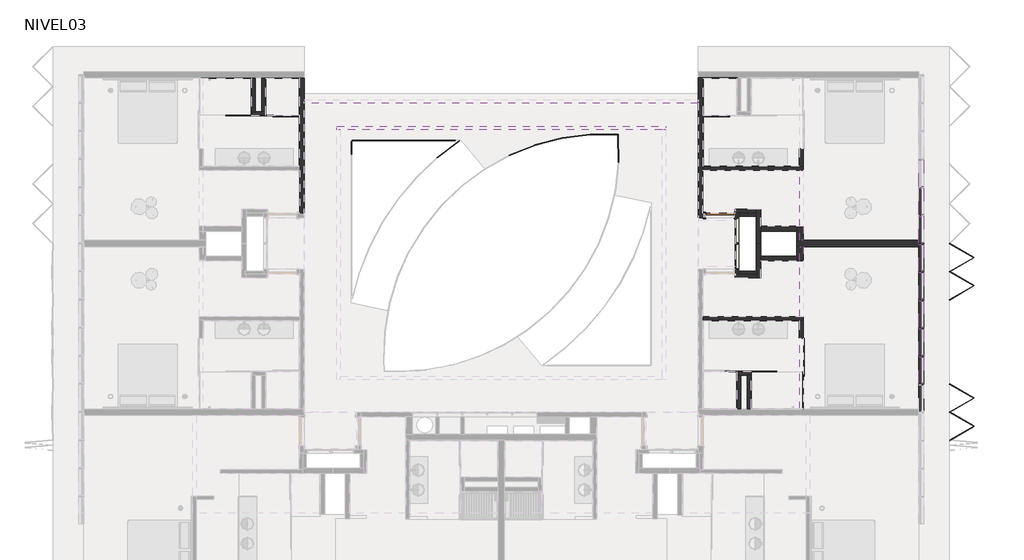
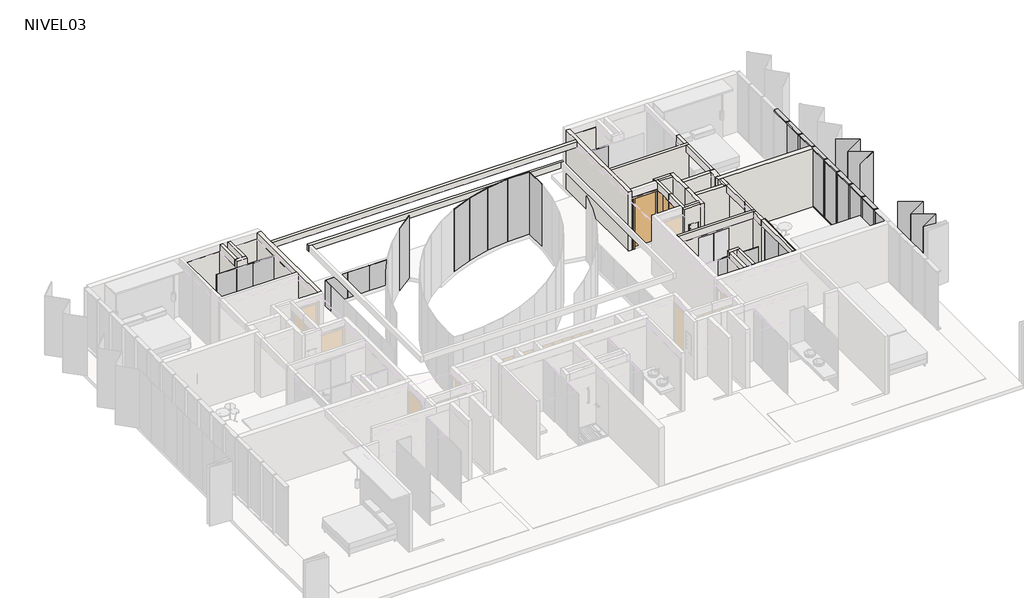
# One storey, part 6 of 8: 43 walls, 26 plates, 20 members, 3 doors.
"""IFC4 building model written with IfcOpenShell, lengths in millimetres."""

from ifc_helpers import new_model, si_unit, frame, origin, place, context, project, spatial, polyline, outline, extrude, faceted_brep, transform, mapped, element, save
from components import m_single_flush_910x_224_d199ccfa, puerta_closet_shaft_82_5_x_224cm_10222c01, puerta_closet_shaft_82_5_x_224cm_6ba6ac82, rectangular_mullion_50_x_150mm_324a6438, rectangular_mullion_50_x_150mm_33c2bde1, folding_hd_folding_hd_60_17fa483a, panel_corredera_cr_panel_corredera_1cb9417a, panel_corredera_cr_panel_corredera_99e605cf, panel_corredera_cr_panel_corredera_8db39db7, system_panel_5ccbd7a3, system_panel_34dc83f9, system_panel_bb99d6db, system_panel_8f9a12f6, system_panel_d16f8cfc, system_panel_cr_shower_402713e2, system_panel_cr_shower_685ec66b, system_panel_glazed_6ccc6dc1

model = new_model("IFC4")

# Units and contexts
model_context = context("Model", 3, world=origin())
ifc_project = project(units=[si_unit("LENGTHUNIT", "METRE", prefix="MILLI")], contexts=[model_context])

# Site, building, storey
site = spatial("IfcSite", under=ifc_project)
building = spatial("IfcBuilding", under=site)
storey = spatial("IfcBuildingStorey", under=building, Name="NIVEL03", Elevation=5220.0)

# Doors
placement = place(None, origin())
m_single_flush_910x_224_shape = m_single_flush_910x_224_d199ccfa(model_context)
element("IfcDoor", 1, ObjectType="M_Single-Flush : 910x 224", at=placement, inside=storey, context=model_context, shape_type="MappedRepresentation", body=[
    mapped(m_single_flush_910x_224_shape, transform((-176.0934748, 6033.9139241, 5220.0), x_axis=(-1.0, 0.0, 0.0), y_axis=(0.0, -1.0, 0.0), z_axis=(0.0, 0.0, 1.0))),
])
puerta_closet_shaft_82_5_x_224cm_shape = puerta_closet_shaft_82_5_x_224cm_10222c01(model_context)
element("IfcDoor", 2, ObjectType="PUERTA CLOSET SHAFT : 82.5 x 224cm", at=placement, inside=storey, context=model_context, shape_type="MappedRepresentation", body=[
    mapped(puerta_closet_shaft_82_5_x_224cm_shape, transform((361.4065252, 5862.9454949, 5220.0), x_axis=(0.0, 1.0, 0.0), y_axis=(-1.0, 0.0, 0.0), z_axis=(0.0, 0.0, 1.0))),
])
puerta_closet_shaft_82_5_x_224cm_2_shape = puerta_closet_shaft_82_5_x_224cm_6ba6ac82(model_context)
element("IfcDoor", 3, ObjectType="PUERTA CLOSET SHAFT : 82.5 x 224cm", at=placement, inside=storey, context=model_context, shape_type="MappedRepresentation", body=[
    mapped(puerta_closet_shaft_82_5_x_224cm_2_shape, transform((361.4065252, 4404.8823532, 5220.0), x_axis=(0.0, -1.0, 0.0), y_axis=(1.0, 0.0, 0.0), z_axis=(0.0, 0.0, 1.0))),
])

# Members
rectangular_mullion_50_x_150mm_shape = rectangular_mullion_50_x_150mm_324a6438(model_context)
element("IfcMember", 4, ObjectType="Rectangular Mullion : 50 x 150mm", at=placement, inside=storey, context=model_context, shape_type="MappedRepresentation", body=[
    mapped(rectangular_mullion_50_x_150mm_shape, transform((6266.4065252, 6958.9139237, 7770.0), x_axis=(0.0, 0.0, 1.0), y_axis=(-1.0, 0.0, 0.0), z_axis=(0.0, -1.0, 0.0))),
])
element("IfcMember", 5, ObjectType="Rectangular Mullion : 50 x 150mm", at=placement, inside=storey, context=model_context, shape_type="MappedRepresentation", body=[
    mapped(rectangular_mullion_50_x_150mm_shape, transform((6266.4065252, 6058.9139237, 7770.0), x_axis=(0.0, 0.0, 1.0), y_axis=(-1.0, 0.0, 0.0), z_axis=(0.0, -1.0, 0.0))),
])
element("IfcMember", 6, ObjectType="Rectangular Mullion : 50 x 150mm", at=placement, inside=storey, context=model_context, shape_type="MappedRepresentation", body=[
    mapped(rectangular_mullion_50_x_150mm_shape, transform((6266.4065252, 5158.9139237, 7770.0), x_axis=(0.0, 0.0, 1.0), y_axis=(-1.0, 0.0, 0.0), z_axis=(0.0, -1.0, 0.0))),
])
element("IfcMember", 7, ObjectType="Rectangular Mullion : 50 x 150mm", at=placement, inside=storey, context=model_context, shape_type="MappedRepresentation", body=[
    mapped(rectangular_mullion_50_x_150mm_shape, transform((6266.4065252, 4258.9139237, 7770.0), x_axis=(0.0, 0.0, 1.0), y_axis=(-1.0, 0.0, 0.0), z_axis=(0.0, -1.0, 0.0))),
])
element("IfcMember", 8, ObjectType="Rectangular Mullion : 50 x 150mm", at=placement, inside=storey, context=model_context, shape_type="MappedRepresentation", body=[
    mapped(rectangular_mullion_50_x_150mm_shape, transform((6266.4065252, 3358.9139237, 7770.0), x_axis=(0.0, 0.0, 1.0), y_axis=(-1.0, 0.0, 0.0), z_axis=(0.0, -1.0, 0.0))),
])
element("IfcMember", 9, ObjectType="Rectangular Mullion : 50 x 150mm", at=placement, inside=storey, context=model_context, shape_type="MappedRepresentation", body=[
    mapped(rectangular_mullion_50_x_150mm_shape, transform((6266.4065252, 2458.9139237, 7770.0), x_axis=(0.0, 0.0, 1.0), y_axis=(-1.0, 0.0, 0.0), z_axis=(0.0, -1.0, 0.0))),
])
element("IfcMember", 10, ObjectType="Rectangular Mullion : 50 x 150mm", at=placement, inside=storey, context=model_context, shape_type="MappedRepresentation", body=[
    mapped(rectangular_mullion_50_x_150mm_shape, transform((6266.4065252, 1558.9139237, 7770.0), x_axis=(0.0, 0.0, 1.0), y_axis=(-1.0, 0.0, 0.0), z_axis=(0.0, -1.0, 0.0))),
])
element("IfcMember", 11, ObjectType="Rectangular Mullion : 50 x 150mm", at=placement, inside=storey, context=model_context, shape_type="MappedRepresentation", body=[
    mapped(rectangular_mullion_50_x_150mm_shape, transform((6266.4065252, 658.9139237, 7770.0), x_axis=(0.0, 0.0, 1.0), y_axis=(-1.0, 0.0, 0.0), z_axis=(0.0, -1.0, 0.0))),
])
element("IfcMember", 12, ObjectType="Rectangular Mullion : 50 x 150mm", at=placement, inside=storey, context=model_context, shape_type="MappedRepresentation", body=[
    mapped(rectangular_mullion_50_x_150mm_shape, transform((6266.4065252, 5108.9139237, 5200.0), x_axis=(0.0, 0.0, -1.0), y_axis=(-1.0, 0.0, 0.0), z_axis=(0.0, 1.0, 0.0))),
])
element("IfcMember", 13, ObjectType="Rectangular Mullion : 50 x 150mm", at=placement, inside=storey, context=model_context, shape_type="MappedRepresentation", body=[
    mapped(rectangular_mullion_50_x_150mm_shape, transform((6266.4065252, 4208.9139237, 5200.0), x_axis=(0.0, 0.0, -1.0), y_axis=(-1.0, 0.0, 0.0), z_axis=(0.0, 1.0, 0.0))),
])
element("IfcMember", 14, ObjectType="Rectangular Mullion : 50 x 150mm", at=placement, inside=storey, context=model_context, shape_type="MappedRepresentation", body=[
    mapped(rectangular_mullion_50_x_150mm_shape, transform((6266.4065252, 3308.9139237, 5200.0), x_axis=(0.0, 0.0, -1.0), y_axis=(-1.0, 0.0, 0.0), z_axis=(0.0, 1.0, 0.0))),
])
element("IfcMember", 15, ObjectType="Rectangular Mullion : 50 x 150mm", at=placement, inside=storey, context=model_context, shape_type="MappedRepresentation", body=[
    mapped(rectangular_mullion_50_x_150mm_shape, transform((6266.4065252, 2408.9139237, 5200.0), x_axis=(0.0, 0.0, -1.0), y_axis=(-1.0, 0.0, 0.0), z_axis=(0.0, 1.0, 0.0))),
])
element("IfcMember", 16, ObjectType="Rectangular Mullion : 50 x 150mm", at=placement, inside=storey, context=model_context, shape_type="MappedRepresentation", body=[
    mapped(rectangular_mullion_50_x_150mm_shape, transform((6266.4065252, 1508.9139237, 5200.0), x_axis=(0.0, 0.0, -1.0), y_axis=(-1.0, 0.0, 0.0), z_axis=(0.0, 1.0, 0.0))),
])
element("IfcMember", 17, ObjectType="Rectangular Mullion : 50 x 150mm", at=placement, inside=storey, context=model_context, shape_type="MappedRepresentation", body=[
    mapped(rectangular_mullion_50_x_150mm_shape, transform((6266.4065252, 608.9139237, 5200.0), x_axis=(0.0, 0.0, -1.0), y_axis=(-1.0, 0.0, 0.0), z_axis=(0.0, 1.0, 0.0))),
])
rectangular_mullion_50_x_150mm_2_shape = rectangular_mullion_50_x_150mm_33c2bde1(model_context)
element("IfcMember", 18, ObjectType="Rectangular Mullion : 50 x 150mm", at=placement, inside=storey, context=model_context, shape_type="MappedRepresentation", body=[
    mapped(rectangular_mullion_50_x_150mm_2_shape, transform((6266.4065252, 5133.9139237, 5200.0), x_axis=(0.0, -1.0, 0.0), y_axis=(-1.0, 0.0, 0.0), z_axis=(0.0, 0.0, -1.0))),
])
element("IfcMember", 19, ObjectType="Rectangular Mullion : 50 x 150mm", at=placement, inside=storey, context=model_context, shape_type="MappedRepresentation", body=[
    mapped(rectangular_mullion_50_x_150mm_2_shape, transform((6266.4065252, 4233.9139237, 5200.0), x_axis=(0.0, -1.0, 0.0), y_axis=(-1.0, 0.0, 0.0), z_axis=(0.0, 0.0, -1.0))),
])
element("IfcMember", 20, ObjectType="Rectangular Mullion : 50 x 150mm", at=placement, inside=storey, context=model_context, shape_type="MappedRepresentation", body=[
    mapped(rectangular_mullion_50_x_150mm_2_shape, transform((6266.4065252, 3333.9139237, 5200.0), x_axis=(0.0, -1.0, 0.0), y_axis=(-1.0, 0.0, 0.0), z_axis=(0.0, 0.0, -1.0))),
])
element("IfcMember", 21, ObjectType="Rectangular Mullion : 50 x 150mm", at=placement, inside=storey, context=model_context, shape_type="MappedRepresentation", body=[
    mapped(rectangular_mullion_50_x_150mm_2_shape, transform((6266.4065252, 2433.9139237, 5200.0), x_axis=(0.0, -1.0, 0.0), y_axis=(-1.0, 0.0, 0.0), z_axis=(0.0, 0.0, -1.0))),
])
element("IfcMember", 22, ObjectType="Rectangular Mullion : 50 x 150mm", at=placement, inside=storey, context=model_context, shape_type="MappedRepresentation", body=[
    mapped(rectangular_mullion_50_x_150mm_2_shape, transform((6266.4065252, 1533.9139237, 5200.0), x_axis=(0.0, -1.0, 0.0), y_axis=(-1.0, 0.0, 0.0), z_axis=(0.0, 0.0, -1.0))),
])
element("IfcMember", 23, ObjectType="Rectangular Mullion : 50 x 150mm", at=placement, inside=storey, context=model_context, shape_type="MappedRepresentation", body=[
    mapped(rectangular_mullion_50_x_150mm_2_shape, transform((6266.4065252, 633.9139237, 5200.0), x_axis=(0.0, -1.0, 0.0), y_axis=(-1.0, 0.0, 0.0), z_axis=(0.0, 0.0, -1.0))),
])

# Plates
folding_hd_folding_hd_60_shape = folding_hd_folding_hd_60_17fa483a(model_context)
element("IfcPlate", 24, ObjectType="FOLDING HD : FOLDING HD 60", at=placement, inside=storey, context=model_context, shape_type="MappedRepresentation", body=[
    mapped(folding_hd_folding_hd_60_shape, transform((7166.4065252, 1983.9139241, 5200.0), x_axis=(0.0, -1.0, 0.0), y_axis=(1.0, 0.0, 0.0), z_axis=(0.0, 0.0, 1.0))),
])
panel_corredera_cr_panel_corredera_shape = panel_corredera_cr_panel_corredera_1cb9417a(model_context)
element("IfcPlate", 25, ObjectType="PANEL CORREDERA : CR_PANEL CORREDERA", at=placement, inside=storey, context=model_context, shape_type="MappedRepresentation", body=[
    mapped(panel_corredera_cr_panel_corredera_shape, transform((-372.2601415, 9233.9139241, 5220.0), x_axis=(1.0, 0.0, 0.0), y_axis=(0.0, 1.0, 0.0), z_axis=(0.0, 0.0, 1.0))),
])
panel_corredera_cr_panel_corredera_2_shape = panel_corredera_cr_panel_corredera_99e605cf(model_context)
element("IfcPlate", 26, ObjectType="PANEL CORREDERA : CR_PANEL CORREDERA", at=placement, inside=storey, context=model_context, shape_type="MappedRepresentation", body=[
    mapped(panel_corredera_cr_panel_corredera_2_shape, transform((-13994.9268082, 9233.9139241, 5220.0), x_axis=(-1.0, 0.0, 0.0), y_axis=(0.0, -1.0, 0.0), z_axis=(0.0, 0.0, 1.0))),
])
panel_corredera_cr_panel_corredera_3_shape = panel_corredera_cr_panel_corredera_8db39db7(model_context)
element("IfcPlate", 27, ObjectType="PANEL CORREDERA : CR_PANEL CORREDERA", at=placement, inside=storey, context=model_context, shape_type="MappedRepresentation", body=[
    mapped(panel_corredera_cr_panel_corredera_3_shape, transform((2481.4065252, 1563.9139241, 5220.0), x_axis=(0.0, -1.0, 0.0), y_axis=(1.0, 0.0, 0.0), z_axis=(0.0, 0.0, 1.0))),
])
system_panel_shape = system_panel_5ccbd7a3(model_context)
element("IfcPlate", 28, ObjectType="System Panel : CR-BARANDA", at=placement, inside=storey, context=model_context, shape_type="MappedRepresentation", body=[
    mapped(system_panel_shape, transform((-11507.3434747, 8433.9139241, 5220.0), x_axis=(1.0, 0.0, 0.0), y_axis=(0.0, 1.0, 0.0), z_axis=(0.0, 0.0, 1.0))),
])
element("IfcPlate", 29, ObjectType="System Panel : CR-BARANDA", at=placement, inside=storey, context=model_context, shape_type="MappedRepresentation", body=[
    mapped(system_panel_shape, transform((-10607.3434745, 8433.9139241, 5220.0), x_axis=(1.0, 0.0, 0.0), y_axis=(0.0, 1.0, 0.0), z_axis=(0.0, 0.0, 1.0))),
])
element("IfcPlate", 30, ObjectType="System Panel : CR-BARANDA", at=placement, inside=storey, context=model_context, shape_type="MappedRepresentation", body=[
    mapped(system_panel_shape, transform((-9707.3434745, 8433.9139241, 5220.0), x_axis=(1.0, 0.0, 0.0), y_axis=(0.0, 1.0, 0.0), z_axis=(0.0, 0.0, 1.0))),
])
system_panel_2_shape = system_panel_34dc83f9(model_context)
element("IfcPlate", 31, ObjectType="System Panel : CR-BARANDA", at=placement, inside=storey, context=model_context, shape_type="MappedRepresentation", body=[
    mapped(system_panel_2_shape, transform((-8954.8434747, 8433.9139241, 5220.0), x_axis=(1.0, 0.0, 0.0), y_axis=(0.0, 1.0, 0.0), z_axis=(0.0, 0.0, 1.0))),
])
system_panel_3_shape = system_panel_bb99d6db(model_context)
element("IfcPlate", 32, ObjectType="System Panel : CR-BARANDA", at=placement, inside=storey, context=model_context, shape_type="MappedRepresentation", body=[
    mapped(system_panel_3_shape, transform((-11983.5934748, 8189.0707631, 5220.0), x_axis=(0.0, 1.0, 0.0), y_axis=(-1.0, 0.0, 0.0), z_axis=(0.0, 0.0, 1.0))),
])
system_panel_4_shape = system_panel_8f9a12f6(model_context)
element("IfcPlate", 33, ObjectType="System Panel : CR-BARANDA", at=placement, inside=storey, context=model_context, shape_type="MappedRepresentation", body=[
    mapped(system_panel_4_shape, transform((-3889.1158289, 8621.3139577, 5220.0), x_axis=(-0.9999985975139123, 0.0016748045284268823, 0.0), y_axis=(-0.0016748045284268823, -0.9999985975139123, 0.0), z_axis=(0.0, 0.0, 1.0))),
])
system_panel_5_shape = system_panel_d16f8cfc(model_context)
element("IfcPlate", 34, ObjectType="System Panel : CR-BARANDA", at=placement, inside=storey, context=model_context, shape_type="MappedRepresentation", body=[
    mapped(system_panel_5_shape, transform((-4785.5416487, 8565.4687941, 5220.0), x_axis=(-0.9920587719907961, -0.1257751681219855, 0.0), y_axis=(0.1257751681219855, -0.9920587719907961, 0.0), z_axis=(0.0, 0.0, 1.0))),
])
element("IfcPlate", 35, ObjectType="System Panel : CR-BARANDA", at=placement, inside=storey, context=model_context, shape_type="MappedRepresentation", body=[
    mapped(system_panel_5_shape, transform((-5667.541953, 8395.8415861, 5220.0), x_axis=(-0.9679419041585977, -0.25117418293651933, 0.0), y_axis=(0.25117418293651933, -0.9679419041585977, 0.0), z_axis=(0.0, 0.0, 1.0))),
])
element("IfcPlate", 36, ObjectType="System Panel : CR-BARANDA", at=placement, inside=storey, context=model_context, shape_type="MappedRepresentation", body=[
    mapped(system_panel_5_shape, transform((-6520.7343753, 8115.1983662, 5220.0), x_axis=(-0.9280412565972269, -0.37247741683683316, 0.0), y_axis=(0.37247741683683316, -0.9280412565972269, 0.0), z_axis=(0.0, 0.0, 1.0))),
])
element("IfcPlate", 37, ObjectType="System Panel : CR-BARANDA", at=placement, inside=storey, context=model_context, shape_type="MappedRepresentation", body=[
    mapped(system_panel_4_shape, transform((-8888.7580194, 8141.1767332, 5220.0), x_axis=(-0.7957364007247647, -0.6056431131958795, 0.0), y_axis=(0.6056431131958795, -0.7957364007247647, 0.0), z_axis=(0.0, 0.0, 1.0))),
])
element("IfcPlate", 38, ObjectType="System Panel : CR-BARANDA", at=placement, inside=storey, context=model_context, shape_type="MappedRepresentation", body=[
    mapped(system_panel_4_shape, transform((-3433.3235969, 8170.5975795, 5220.0), x_axis=(0.012873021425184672, -0.9999171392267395, 0.0), y_axis=(0.9999171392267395, 0.012873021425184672, 0.0), z_axis=(0.0, 0.0, 1.0))),
])
system_panel_cr_shower_shape = system_panel_cr_shower_402713e2(model_context)
element("IfcPlate", 39, ObjectType="System Panel : CR-SHOWER", at=placement, inside=storey, context=model_context, shape_type="MappedRepresentation", body=[
    mapped(system_panel_cr_shower_shape, transform((-15178.9268082, 9233.9139241, 5220.0), x_axis=(1.0, 0.0, 0.0), y_axis=(0.0, 1.0, 0.0), z_axis=(0.0, 0.0, 1.0))),
])
element("IfcPlate", 40, ObjectType="System Panel : CR-SHOWER", at=placement, inside=storey, context=model_context, shape_type="MappedRepresentation", body=[
    mapped(system_panel_cr_shower_shape, transform((811.7398585, 1033.9139241, 5220.0), x_axis=(-1.0, 0.0, 0.0), y_axis=(0.0, -1.0, 0.0), z_axis=(0.0, 0.0, 1.0))),
])
system_panel_cr_shower_2_shape = system_panel_cr_shower_685ec66b(model_context)
element("IfcPlate", 41, ObjectType="System Panel : CR-SHOWER", at=placement, inside=storey, context=model_context, shape_type="MappedRepresentation", body=[
    mapped(system_panel_cr_shower_2_shape, transform((2481.4065252, 433.9139241, 5220.0), x_axis=(0.0, -1.0, 0.0), y_axis=(1.0, 0.0, 0.0), z_axis=(0.0, 0.0, 1.0))),
])
system_panel_glazed_shape = system_panel_glazed_6ccc6dc1(model_context)
element("IfcPlate", 42, ObjectType="System Panel : Glazed", at=placement, inside=storey, context=model_context, shape_type="MappedRepresentation", body=[
    mapped(system_panel_glazed_shape, transform((6266.4065252, 6483.9139237, 5250.0), x_axis=(0.0, -1.0, 0.0), y_axis=(1.0, 0.0, 0.0), z_axis=(0.0, 0.0, 1.0))),
])
element("IfcPlate", 43, ObjectType="System Panel : Glazed", at=placement, inside=storey, context=model_context, shape_type="MappedRepresentation", body=[
    mapped(system_panel_glazed_shape, transform((6266.4065252, 5583.9139237, 5250.0), x_axis=(0.0, -1.0, 0.0), y_axis=(1.0, 0.0, 0.0), z_axis=(0.0, 0.0, 1.0))),
])
element("IfcPlate", 44, ObjectType="System Panel : Glazed", at=placement, inside=storey, context=model_context, shape_type="MappedRepresentation", body=[
    mapped(system_panel_glazed_shape, transform((6266.4065252, 4683.9139237, 5250.0), x_axis=(0.0, -1.0, 0.0), y_axis=(1.0, 0.0, 0.0), z_axis=(0.0, 0.0, 1.0))),
])
element("IfcPlate", 45, ObjectType="System Panel : Glazed", at=placement, inside=storey, context=model_context, shape_type="MappedRepresentation", body=[
    mapped(system_panel_glazed_shape, transform((6266.4065252, 3783.9139237, 5250.0), x_axis=(0.0, -1.0, 0.0), y_axis=(1.0, 0.0, 0.0), z_axis=(0.0, 0.0, 1.0))),
])
element("IfcPlate", 46, ObjectType="System Panel : Glazed", at=placement, inside=storey, context=model_context, shape_type="MappedRepresentation", body=[
    mapped(system_panel_glazed_shape, transform((6266.4065252, 2883.9139237, 5250.0), x_axis=(0.0, -1.0, 0.0), y_axis=(1.0, 0.0, 0.0), z_axis=(0.0, 0.0, 1.0))),
])
element("IfcPlate", 47, ObjectType="System Panel : Glazed", at=placement, inside=storey, context=model_context, shape_type="MappedRepresentation", body=[
    mapped(system_panel_glazed_shape, transform((6266.4065252, 1983.9139237, 5250.0), x_axis=(0.0, -1.0, 0.0), y_axis=(1.0, 0.0, 0.0), z_axis=(0.0, 0.0, 1.0))),
])
element("IfcPlate", 48, ObjectType="System Panel : Glazed", at=placement, inside=storey, context=model_context, shape_type="MappedRepresentation", body=[
    mapped(system_panel_glazed_shape, transform((6266.4065252, 1083.9139237, 5250.0), x_axis=(0.0, -1.0, 0.0), y_axis=(1.0, 0.0, 0.0), z_axis=(0.0, 0.0, 1.0))),
])
element("IfcPlate", 49, ObjectType="System Panel : Glazed", at=placement, inside=storey, context=model_context, shape_type="MappedRepresentation", body=[
    mapped(system_panel_glazed_shape, transform((6266.4065252, 183.9139237, 5250.0), x_axis=(0.0, -1.0, 0.0), y_axis=(1.0, 0.0, 0.0), z_axis=(0.0, 0.0, 1.0))),
])

# Walls
element("IfcWall", 50, ObjectType="SCV.TI.A.120.120.122.46.2", at=placement, inside=storey, context=model_context, shape_type="SweptSolid", body=[
    extrude(outline(polyline([(-15173.5934748, 9353.9139241), (-15173.5934748, 10433.9139241), (-15053.5934748, 10433.9139241), (-15053.5934748, 9353.9139241), (-15173.5934748, 9353.9139241)])), frame((0.0, 0.0, 5200.0), z_axis=(0.0, 0.0, 1.0), x_axis=(1.0, 0.0, 0.0)), (0.0, 0.0, 1.0), 2570.0),
])
element("IfcWall", 51, ObjectType="SCV.TI.A.120.120.122.46.2", at=placement, inside=storey, context=model_context, shape_type="Brep", body=[
    faceted_brep([(-15173.5934748, 9233.9139241, 5200.0), (-14733.5934748, 9233.9139241, 5200.0), (-14733.5934748, 9233.9139241, 7770.0), (-15173.5934748, 9233.9139241, 7770.0), (-15173.5934748, 9353.9139241, 5200.0), (-15173.5934748, 9353.9139241, 7770.0), (-15053.5934748, 9353.9139241, 7770.0), (-14853.5934748, 9353.9139241, 7770.0), (-14733.5934748, 9353.9139241, 7770.0), (-14733.5934748, 9353.9139241, 5200.0), (-14853.5934748, 9353.9139241, 5200.0), (-15053.5934748, 9353.9139241, 5200.0)], [[[0, 1, 2, 3]], [[4, 5, 6, 7, 8, 9, 10, 11]], [[1, 0, 4, 11, 10, 9]], [[3, 2, 8, 7, 6, 5]], [[2, 1, 9, 8]], [[0, 3, 5, 4]]]),
])
element("IfcWall", 52, ObjectType="SCV.TI.A.120.120.122.46.2", at=placement, inside=storey, context=model_context, shape_type="SweptSolid", body=[
    extrude(outline(polyline([(-14733.5934748, 10433.9139241), (-14733.5934748, 9353.9139241), (-14853.5934748, 9353.9139241), (-14853.5934748, 10433.9139241), (-14733.5934748, 10433.9139241)])), frame((0.0, 0.0, 5200.0), z_axis=(0.0, 0.0, 1.0), x_axis=(1.0, 0.0, 0.0)), (0.0, 0.0, 1.0), 2570.0),
])
element("IfcWall", 53, ObjectType="REV-PORCELANATO_60*60", at=placement, inside=storey, context=model_context, shape_type="Brep", body=[
    faceted_brep([(-13633.5934748, 7603.9139241, 5240.0), (-13633.5934748, 10433.9139241, 5240.0), (-13633.5934748, 10433.9139241, 7480.0), (-13633.5934748, 7603.9139241, 7480.0), (-13643.5934748, 7603.9139241, 5240.0), (-13643.5934748, 7603.9139241, 7480.0), (-13643.5934748, 10423.9139241, 7480.0), (-13643.5934748, 10433.9139241, 7480.0), (-13643.5934748, 10433.9139241, 5240.0), (-13643.5934748, 10423.9139241, 5240.0)], [[[0, 1, 2, 3]], [[4, 5, 6, 7, 8, 9]], [[1, 0, 4, 9, 8]], [[3, 2, 7, 6, 5]], [[2, 1, 8, 7]], [[0, 3, 5, 4]]]),
])
element("IfcWall", 54, ObjectType="REV-PORCELANATO_60*60", at=placement, inside=storey, context=model_context, shape_type="Brep", body=[
    faceted_brep([(-13643.5934748, 10433.9139241, 5240.0), (-14733.5934748, 10433.9139241, 5240.0), (-14733.5934748, 10433.9139241, 7480.0), (-13643.5934748, 10433.9139241, 7480.0), (-13643.5934748, 10423.9139241, 5240.0), (-13643.5934748, 10423.9139241, 7480.0), (-14723.5934748, 10423.9139241, 7480.0), (-14733.5934748, 10423.9139241, 7480.0), (-14733.5934748, 10423.9139241, 5240.0), (-14723.5934748, 10423.9139241, 5240.0)], [[[0, 1, 2, 3]], [[4, 5, 6, 7, 8, 9]], [[1, 0, 4, 9, 8]], [[3, 2, 7, 6, 5]], [[2, 1, 8, 7]], [[0, 3, 5, 4]]]),
])
element("IfcWall", 55, ObjectType="REV-PORCELANATO_60*60", at=placement, inside=storey, context=model_context, shape_type="SweptSolid", body=[
    extrude(outline(polyline([(-14723.5934748, 10423.9139241), (-14723.5934748, 9233.9139241), (-14733.5934748, 9233.9139241), (-14733.5934748, 10423.9139241), (-14723.5934748, 10423.9139241)])), frame((0.0, 0.0, 5240.0), z_axis=(0.0, 0.0, 1.0), x_axis=(1.0, 0.0, 0.0)), (0.0, 0.0, 1.0), 2240.0),
])
element("IfcWall", 56, ObjectType="REV-PORCELANATO_60*60", at=placement, inside=storey, context=model_context, shape_type="Brep", body=[
    faceted_brep([(-15173.5934748, 9233.9139241, 5220.0), (-15173.5934748, 10433.9139241, 5220.0), (-15173.5934748, 10433.9139241, 7480.0), (-15173.5934748, 9233.9139241, 7480.0), (-15183.5934748, 9233.9139241, 5220.0), (-15183.5934748, 9233.9139241, 7480.0), (-15183.5934748, 10423.9139241, 7480.0), (-15183.5934748, 10433.9139241, 7480.0), (-15183.5934748, 10433.9139241, 5220.0), (-15183.5934748, 10423.9139241, 5220.0)], [[[0, 1, 2, 3]], [[4, 5, 6, 7, 8, 9]], [[1, 0, 4, 9, 8]], [[3, 2, 7, 6, 5]], [[0, 3, 5, 4]], [[2, 1, 8, 7]]]),
])
element("IfcWall", 57, ObjectType="REV-PORCELANATO_60*60", at=placement, inside=storey, context=model_context, shape_type="SweptSolid", body=[
    extrude(outline(polyline([(-16793.5934748, 10433.9139241), (-15183.5934748, 10433.9139241), (-15183.5934748, 10423.9139241), (-16793.5934748, 10423.9139241), (-16793.5934748, 10433.9139241)])), frame((0.0, 0.0, 5220.0), z_axis=(0.0, 0.0, 1.0), x_axis=(1.0, 0.0, 0.0)), (0.0, 0.0, 1.0), 2260.0),
])
element("IfcWall", 58, ObjectType="SCV.TI.A.150.120.212.47.1", at=placement, inside=storey, context=model_context, shape_type="Brep", body=[
    faceted_brep([(-13483.5934748, 6108.9139241, 5200.0), (-13483.5934748, 10433.9139241, 5200.0), (-13483.5934748, 10433.9139241, 7770.0), (-13483.5934748, 9733.9139241, 7770.0), (-13483.5934748, 9623.9139241, 7770.0), (-13483.5934748, 6108.9139241, 7770.0), (-13633.5934748, 6108.9139241, 5200.0), (-13633.5934748, 6108.9139241, 7770.0), (-13633.5934748, 7483.9139241, 7770.0), (-13633.5934748, 7593.9139241, 7770.0), (-13633.5934748, 10433.9139241, 7770.0), (-13633.5934748, 10433.9139241, 5200.0), (-13633.5934748, 7593.9139241, 5200.0), (-13633.5934748, 7483.9139241, 5200.0)], [[[0, 1, 2, 3, 4, 5]], [[6, 7, 8, 9, 10, 11, 12, 13]], [[1, 0, 6, 13, 12, 11]], [[5, 4, 3, 2, 10, 9, 8, 7]], [[2, 1, 11, 10]], [[0, 5, 7, 6]]]),
])
element("IfcWall", 59, ObjectType="SCV.TI.A.150.120.212.47.1", at=placement, inside=storey, context=model_context, shape_type="Brep", body=[
    faceted_brep([(-733.5934748, 5958.9139241, 5200.0), (-733.5934748, 6108.9139241, 5200.0), (-733.5934748, 7483.9139241, 5200.0), (-733.5934748, 7593.9139241, 5200.0), (-733.5934748, 10433.9139241, 5200.0), (-733.5934748, 10433.9139241, 7770.0), (-733.5934748, 7593.9139241, 7770.0), (-733.5934748, 7483.9139241, 7770.0), (-733.5934748, 6108.9139241, 7770.0), (-733.5934748, 5958.9139241, 7770.0), (-883.5934748, 5958.9139241, 5200.0), (-883.5934748, 5958.9139241, 7770.0), (-883.5934748, 9623.9139241, 7770.0), (-883.5934748, 9733.9139241, 7770.0), (-883.5934748, 10433.9139241, 7770.0), (-883.5934748, 10433.9139241, 5200.0)], [[[0, 1, 2, 3, 4, 5, 6, 7, 8, 9]], [[10, 11, 12, 13, 14, 15]], [[4, 3, 2, 1, 0, 10, 15]], [[9, 8, 7, 6, 5, 14, 13, 12, 11]], [[0, 9, 11, 10]], [[5, 4, 15, 14]]]),
])
element("IfcWall", 60, ObjectType="SCV.TI.A.110.090.143.47.1 2", at=placement, inside=storey, context=model_context, shape_type="Brep", body=[
    faceted_brep([(-12443.5934748, 8893.9139241, 7770.0), (-1923.5934748, 8893.9139241, 7770.0), (-1923.5934748, 8893.9139241, 7525.0), (-12443.5934748, 8893.9139241, 7525.0), (-1923.5934748, 8783.9139241, 7770.0), (-2033.5934748, 8783.9139241, 7770.0), (-12333.5934748, 8783.9139241, 7770.0), (-12443.5934748, 8783.9139241, 7770.0), (-12443.5934748, 8783.9139241, 7525.0), (-12333.5934748, 8783.9139241, 7525.0), (-2033.5934748, 8783.9139241, 7525.0), (-1923.5934748, 8783.9139241, 7525.0)], [[[0, 1, 2, 3]], [[4, 5, 6, 7, 8, 9, 10, 11]], [[1, 0, 7, 6, 5, 4]], [[1, 4, 11, 2]], [[7, 0, 3, 8]], [[3, 2, 11, 10, 9, 8]]]),
])
element("IfcWall", 61, ObjectType="SCV.TI.A.110.090.143.47.1 2", at=placement, inside=storey, context=model_context, shape_type="SweptSolid", body=[
    extrude(outline(polyline([(-13483.5934748, 9733.9139241), (-883.5934748, 9733.9139241), (-883.5934748, 9623.9139241), (-13483.5934748, 9623.9139241), (-13483.5934748, 9733.9139241)])), frame((0.0, 0.0, 7525.0), z_axis=(0.0, 0.0, 1.0), x_axis=(1.0, 0.0, 0.0)), (0.0, 0.0, 1.0), 245.0),
])
element("IfcWall", 62, ObjectType="SCV.TI.A.110.090.143.47.1", at=placement, inside=storey, context=model_context, shape_type="Brep", body=[
    faceted_brep([(306.4065252, 6123.9139241, 5200.0), (306.4065252, 6108.9139241, 5200.0), (306.4065252, 5958.9139241, 5200.0), (306.4065252, 5128.3504322, 5200.0), (306.4065252, 5128.3504322, 5220.0), (306.4065252, 5958.9139241, 5220.0), (306.4065252, 5958.9139241, 7460.0), (306.4065252, 5128.3504322, 7460.0), (306.4065252, 5128.3504322, 7770.0), (306.4065252, 5958.9139241, 7770.0), (306.4065252, 6108.9139241, 7770.0), (306.4065252, 6123.9139241, 7770.0), (416.4065252, 5128.3504322, 5200.0), (416.4065252, 6013.9139241, 5200.0), (416.4065252, 6123.9139241, 5200.0), (416.4065252, 6123.9139241, 7770.0), (416.4065252, 6013.9139241, 7770.0), (416.4065252, 5128.3504322, 7770.0), (416.4065252, 5128.3504322, 7460.0), (416.4065252, 5958.9139241, 7460.0), (416.4065252, 5958.9139241, 5220.0), (416.4065252, 5128.3504322, 5220.0)], [[[0, 1, 2, 3, 4, 5, 6, 7, 8, 9, 10, 11]], [[12, 13, 14, 15, 16, 17, 18, 19, 20, 21]], [[3, 2, 1, 0, 14, 13, 12]], [[17, 8, 7, 18]], [[3, 12, 21, 4]], [[11, 10, 9, 8, 17, 16, 15]], [[6, 19, 18, 7]], [[20, 5, 4, 21]], [[5, 20, 19, 6]], [[0, 11, 15, 14]]]),
])
element("IfcWall", 63, ObjectType="SCV.TI.A.110.090.143.47.1", at=placement, inside=storey, context=model_context, shape_type="Brep", body=[
    faceted_brep([(-733.5934748, 7483.9139241, 5200.0), (2481.4065252, 7483.9139241, 5200.0), (2481.4065252, 7483.9139241, 7470.0), (2481.4065252, 7483.9139241, 7770.0), (2371.4065252, 7483.9139241, 7770.0), (-733.5934748, 7483.9139241, 7770.0), (-733.5934748, 7593.9139241, 5200.0), (-733.5934748, 7593.9139241, 7770.0), (2371.4065252, 7593.9139241, 7770.0), (2481.4065252, 7593.9139241, 7770.0), (2481.4065252, 7593.9139241, 5200.0), (2371.4065252, 7593.9139241, 5200.0)], [[[0, 1, 2, 3, 4, 5]], [[6, 7, 8, 9, 10, 11]], [[1, 0, 6, 11, 10]], [[5, 4, 3, 9, 8, 7]], [[3, 2, 1, 10, 9]], [[0, 5, 7, 6]]]),
])
element("IfcWall", 64, ObjectType="SCV.TI.A.110.090.143.47.1", at=placement, inside=storey, context=model_context, shape_type="Brep", body=[
    faceted_brep([(306.4065252, 6123.9139241, 5200.0), (416.4065252, 6123.9139241, 5200.0), (976.4065252, 6123.9139241, 5200.0), (976.4065252, 6123.9139241, 7770.0), (416.4065252, 6123.9139241, 7770.0), (306.4065252, 6123.9139241, 7770.0), (306.4065252, 6233.9139241, 5200.0), (306.4065252, 6233.9139241, 7770.0), (976.4065252, 6233.9139241, 7770.0), (976.4065252, 6233.9139241, 5200.0)], [[[0, 1, 2, 3, 4, 5]], [[6, 7, 8, 9]], [[2, 1, 0, 6, 9]], [[5, 4, 3, 8, 7]], [[0, 5, 7, 6]], [[3, 2, 9, 8]]]),
])
element("IfcWall", 65, ObjectType="SCV.TI.A.110.090.143.47.1", at=placement, inside=storey, context=model_context, shape_type="Brep", body=[
    faceted_brep([(2481.4065252, 7593.9139241, 7770.0), (2481.4065252, 7593.9139241, 5200.0), (2481.4065252, 8173.9139241, 5200.0), (2481.4065252, 8173.9139241, 7770.0), (2371.4065252, 7593.9139241, 5200.0), (2371.4065252, 7593.9139241, 7770.0), (2371.4065252, 8173.9139241, 7770.0), (2371.4065252, 8173.9139241, 7525.0), (2371.4065252, 8173.9139241, 5200.0)], [[[0, 1, 2, 3]], [[4, 5, 6, 7, 8]], [[2, 1, 4, 8]], [[3, 2, 8, 7, 6]], [[0, 3, 6, 5]], [[0, 5, 4, 1]]]),
])
element("IfcWall", 66, ObjectType="REV-PORCELANATO_60*60", at=placement, inside=storey, context=model_context, shape_type="Brep", body=[
    faceted_brep([(2371.4065252, 7593.9139241, 5240.0), (2371.4065252, 8173.9139241, 5240.0), (2371.4065252, 8173.9139241, 7480.0), (2371.4065252, 7593.9139241, 7480.0), (2361.4065252, 7593.9139241, 5240.0), (2361.4065252, 7593.9139241, 7480.0), (2361.4065252, 7603.9139241, 7480.0), (2361.4065252, 8173.9139241, 7480.0), (2361.4065252, 8173.9139241, 5240.0), (2361.4065252, 7603.9139241, 5240.0)], [[[0, 1, 2, 3]], [[4, 5, 6, 7, 8, 9]], [[1, 0, 4, 9, 8]], [[2, 1, 8, 7]], [[3, 2, 7, 6, 5]], [[0, 3, 5, 4]]]),
])
element("IfcWall", 67, ObjectType="REV-PORCELANATO_60*60", at=placement, inside=storey, context=model_context, shape_type="Brep", body=[
    faceted_brep([(-733.5934748, 7593.9139241, 5240.0), (2361.4065252, 7593.9139241, 5240.0), (2361.4065252, 7593.9139241, 7480.0), (-733.5934748, 7593.9139241, 7480.0), (-733.5934748, 7603.9139241, 5240.0), (-733.5934748, 7603.9139241, 7480.0), (-723.5934748, 7603.9139241, 7480.0), (2361.4065252, 7603.9139241, 7480.0), (2361.4065252, 7603.9139241, 5240.0), (-723.5934748, 7603.9139241, 5240.0)], [[[0, 1, 2, 3]], [[4, 5, 6, 7, 8, 9]], [[1, 0, 4, 9, 8]], [[3, 2, 7, 6, 5]], [[0, 3, 5, 4]], [[2, 1, 8, 7]]]),
])
element("IfcWall", 68, ObjectType="REV-PORCELANATO_60*60", at=placement, inside=storey, context=model_context, shape_type="Brep", body=[
    faceted_brep([(-723.5934748, 7603.9139241, 5240.0), (-723.5934748, 10423.9139241, 5240.0), (-723.5934748, 10433.9139241, 5240.0), (-723.5934748, 10433.9139241, 7480.0), (-723.5934748, 10423.9139241, 7480.0), (-723.5934748, 7603.9139241, 7480.0), (-733.5934748, 7603.9139241, 5240.0), (-733.5934748, 7603.9139241, 7480.0), (-733.5934748, 10433.9139241, 7480.0), (-733.5934748, 10433.9139241, 5240.0)], [[[0, 1, 2, 3, 4, 5]], [[6, 7, 8, 9]], [[2, 1, 0, 6, 9]], [[5, 4, 3, 8, 7]], [[3, 2, 9, 8]], [[0, 5, 7, 6]]]),
])
element("IfcWall", 69, ObjectType="REV-PORCELANATO_60*60", at=placement, inside=storey, context=model_context, shape_type="Brep", body=[
    faceted_brep([(-723.5934748, 10423.9139241, 5240.0), (356.4065252, 10423.9139241, 5240.0), (366.4065252, 10423.9139241, 5240.0), (366.4065252, 10423.9139241, 7480.0), (356.4065252, 10423.9139241, 7480.0), (-723.5934748, 10423.9139241, 7480.0), (-723.5934748, 10433.9139241, 5240.0), (-723.5934748, 10433.9139241, 7480.0), (366.4065252, 10433.9139241, 7480.0), (366.4065252, 10433.9139241, 5240.0)], [[[0, 1, 2, 3, 4, 5]], [[6, 7, 8, 9]], [[2, 1, 0, 6, 9]], [[5, 4, 3, 8, 7]], [[3, 2, 9, 8]], [[0, 5, 7, 6]]]),
])
element("IfcWall", 70, ObjectType="SCV.TI.A.110.090.143.47.1 2", at=placement, inside=storey, context=model_context, shape_type="SweptSolid", body=[
    extrude(outline(polyline([(2371.4065252, 5233.9139241), (2371.4065252, 7483.9139241), (2481.4065252, 7483.9139241), (2481.4065252, 5233.9139241), (2371.4065252, 5233.9139241)])), frame((0.0, 0.0, 7470.0), z_axis=(0.0, 0.0, 1.0), x_axis=(1.0, 0.0, 0.0)), (0.0, 0.0, 1.0), 300.0),
])
element("IfcWall", 71, ObjectType="SCV.TI.A.110.090.143.47.1", at=placement, inside=storey, context=model_context, shape_type="SweptSolid", body=[
    extrude(outline(polyline([(1006.4065252, 6013.9139241), (416.4065252, 6013.9139241), (416.4065252, 6123.9139241), (1006.4065252, 6123.9139241), (1006.4065252, 6013.9139241)])), frame((0.0, 0.0, 5200.0), z_axis=(0.0, 0.0, 1.0), x_axis=(1.0, 0.0, 0.0)), (0.0, 0.0, 1.0), 2570.0),
])
element("IfcWall", 72, ObjectType="SCV.TI.A.150.120.212.47.1", at=placement, inside=storey, context=model_context, shape_type="Brep", body=[
    faceted_brep([(1126.4065252, 5133.9139241, 5200.0), (1126.4065252, 5533.9139241, 5200.0), (1126.4065252, 5683.9139241, 5200.0), (1126.4065252, 6233.9139241, 5200.0), (1126.4065252, 6233.9139241, 7770.0), (1126.4065252, 5683.9139241, 7770.0), (1126.4065252, 5533.9139241, 7770.0), (1126.4065252, 5133.9139241, 7770.0), (976.4065252, 5133.9139241, 5200.0), (976.4065252, 5133.9139241, 7770.0), (976.4065252, 6123.9139241, 7770.0), (976.4065252, 6233.9139241, 7770.0), (976.4065252, 6233.9139241, 5200.0), (976.4065252, 6123.9139241, 5200.0)], [[[0, 1, 2, 3, 4, 5, 6, 7]], [[8, 9, 10, 11, 12, 13]], [[3, 2, 1, 0, 8, 13, 12]], [[7, 6, 5, 4, 11, 10, 9]], [[0, 7, 9, 8]], [[4, 3, 12, 11]]]),
])
element("IfcWall", 73, ObjectType="SCV.TI.A.150.120.212.47.1", at=placement, inside=storey, context=model_context, shape_type="SweptSolid", body=[
    extrude(outline(polyline([(1126.4065252, 5683.9139241), (2481.4065252, 5683.9139241), (2481.4065252, 5668.9139241), (2281.4065252, 5668.9139241), (2281.4065252, 5533.9139241), (1126.4065252, 5533.9139241), (1126.4065252, 5683.9139241)])), frame((0.0, 0.0, 5200.0), z_axis=(0.0, 0.0, 1.0), x_axis=(1.0, 0.0, 0.0)), (0.0, 0.0, 1.0), 2570.0),
])
element("IfcWall", 74, ObjectType="SCV.TI.A.110.090.143.47.1", at=placement, inside=storey, context=model_context, shape_type="Brep", body=[
    faceted_brep([(416.4065252, 4143.9139241, 5200.0), (416.4065252, 4253.9139241, 5200.0), (416.4065252, 5128.3504322, 5200.0), (416.4065252, 5128.3504322, 5220.0), (416.4065252, 4308.9139241, 5220.0), (416.4065252, 4308.9139241, 7460.0), (416.4065252, 5128.3504322, 7460.0), (416.4065252, 5128.3504322, 7770.0), (416.4065252, 4253.9139241, 7770.0), (416.4065252, 4143.9139241, 7770.0), (306.4065252, 5128.3504322, 5200.0), (306.4065252, 4308.9139241, 5200.0), (306.4065252, 4158.9139241, 5200.0), (306.4065252, 4143.9139241, 5200.0), (306.4065252, 4143.9139241, 7770.0), (306.4065252, 4158.9139241, 7770.0), (306.4065252, 4308.9139241, 7770.0), (306.4065252, 5128.3504322, 7770.0), (306.4065252, 5128.3504322, 7460.0), (306.4065252, 4308.9139241, 7460.0), (306.4065252, 4308.9139241, 5220.0), (306.4065252, 5128.3504322, 5220.0)], [[[0, 1, 2, 3, 4, 5, 6, 7, 8, 9]], [[10, 11, 12, 13, 14, 15, 16, 17, 18, 19, 20, 21]], [[2, 1, 0, 13, 12, 11, 10]], [[17, 7, 6, 18]], [[2, 10, 21, 3]], [[9, 8, 7, 17, 16, 15, 14]], [[5, 19, 18, 6]], [[20, 4, 3, 21]], [[19, 5, 4, 20]], [[0, 9, 14, 13]]]),
])
element("IfcWall", 75, ObjectType="SCV.TI.A.110.090.143.47.1", at=placement, inside=storey, context=model_context, shape_type="Brep", body=[
    faceted_brep([(-733.5934748, 2673.9139241, 5200.0), (2371.4065252, 2673.9139241, 5200.0), (2481.4065252, 2673.9139241, 5200.0), (2481.4065252, 2673.9139241, 7770.0), (2371.4065252, 2673.9139241, 7770.0), (-733.5934748, 2673.9139241, 7770.0), (-733.5934748, 2783.9139241, 5200.0), (-733.5934748, 2783.9139241, 7770.0), (2371.4065252, 2783.9139241, 7770.0), (2481.4065252, 2783.9139241, 7770.0), (2481.4065252, 2783.9139241, 7470.0), (2481.4065252, 2783.9139241, 5200.0)], [[[0, 1, 2, 3, 4, 5]], [[6, 7, 8, 9, 10, 11]], [[2, 1, 0, 6, 11]], [[5, 4, 3, 9, 8, 7]], [[3, 2, 11, 10, 9]], [[0, 5, 7, 6]]]),
])
element("IfcWall", 76, ObjectType="SCV.TI.A.110.090.143.47.1", at=placement, inside=storey, context=model_context, shape_type="Brep", body=[
    faceted_brep([(306.4065252, 4033.9139241, 5200.0), (976.4065252, 4033.9139241, 5200.0), (976.4065252, 4033.9139241, 7770.0), (306.4065252, 4033.9139241, 7770.0), (306.4065252, 4143.9139241, 5200.0), (306.4065252, 4143.9139241, 7770.0), (416.4065252, 4143.9139241, 7770.0), (976.4065252, 4143.9139241, 7770.0), (976.4065252, 4143.9139241, 5200.0), (416.4065252, 4143.9139241, 5200.0)], [[[0, 1, 2, 3]], [[4, 5, 6, 7, 8, 9]], [[1, 0, 4, 9, 8]], [[3, 2, 7, 6, 5]], [[0, 3, 5, 4]], [[2, 1, 8, 7]]]),
])
element("IfcWall", 77, ObjectType="SCV.TI.A.120.120.122.46.2", at=placement, inside=storey, context=model_context, shape_type="SweptSolid", body=[
    extrude(outline(polyline([(806.4065252, 913.9139241), (806.4065252, -166.0860759), (686.4065252, -166.0860759), (686.4065252, 913.9139241), (806.4065252, 913.9139241)])), frame((0.0, 0.0, 5200.0), z_axis=(0.0, 0.0, 1.0), x_axis=(1.0, 0.0, 0.0)), (0.0, 0.0, 1.0), 2570.0),
])
element("IfcWall", 78, ObjectType="SCV.TI.A.120.120.122.46.2", at=placement, inside=storey, context=model_context, shape_type="Brep", body=[
    faceted_brep([(806.4065252, 1033.9139241, 5200.0), (366.4065252, 1033.9139241, 5200.0), (366.4065252, 1033.9139241, 7770.0), (806.4065252, 1033.9139241, 7770.0), (806.4065252, 913.9139241, 5200.0), (806.4065252, 913.9139241, 7770.0), (686.4065252, 913.9139241, 7770.0), (486.4065252, 913.9139241, 7770.0), (366.4065252, 913.9139241, 7770.0), (366.4065252, 913.9139241, 5200.0), (486.4065252, 913.9139241, 5200.0), (686.4065252, 913.9139241, 5200.0)], [[[0, 1, 2, 3]], [[4, 5, 6, 7, 8, 9, 10, 11]], [[1, 0, 4, 11, 10, 9]], [[3, 2, 8, 7, 6, 5]], [[2, 1, 9, 8]], [[0, 3, 5, 4]]]),
])
element("IfcWall", 79, ObjectType="SCV.TI.A.120.120.122.46.2", at=placement, inside=storey, context=model_context, shape_type="SweptSolid", body=[
    extrude(outline(polyline([(366.4065252, -166.0860759), (366.4065252, 913.9139241), (486.4065252, 913.9139241), (486.4065252, -166.0860759), (366.4065252, -166.0860759)])), frame((0.0, 0.0, 5200.0), z_axis=(0.0, 0.0, 1.0), x_axis=(1.0, 0.0, 0.0)), (0.0, 0.0, 1.0), 2570.0),
])
element("IfcWall", 80, ObjectType="SCV.TI.A.110.090.143.47.1", at=placement, inside=storey, context=model_context, shape_type="Brep", body=[
    faceted_brep([(2371.4065252, 2673.9139241, 7770.0), (2371.4065252, 2673.9139241, 5200.0), (2371.4065252, 2093.9139241, 5200.0), (2371.4065252, 2093.9139241, 7525.0), (2371.4065252, 2093.9139241, 7770.0), (2481.4065252, 2673.9139241, 5200.0), (2481.4065252, 2673.9139241, 7770.0), (2481.4065252, 2093.9139241, 7770.0), (2481.4065252, 2093.9139241, 5200.0)], [[[0, 1, 2, 3, 4]], [[5, 6, 7, 8]], [[2, 1, 5, 8]], [[4, 3, 2, 8, 7]], [[0, 4, 7, 6]], [[0, 6, 5, 1]]]),
])
element("IfcWall", 81, ObjectType="REV-PORCELANATO_60*60", at=placement, inside=storey, context=model_context, shape_type="Brep", body=[
    faceted_brep([(2361.4065252, 2673.9139241, 5240.0), (2361.4065252, 2663.9139241, 5240.0), (2361.4065252, 2093.9139241, 5240.0), (2361.4065252, 2093.9139241, 7480.0), (2361.4065252, 2663.9139241, 7480.0), (2361.4065252, 2673.9139241, 7480.0), (2371.4065252, 2673.9139241, 5240.0), (2371.4065252, 2673.9139241, 7480.0), (2371.4065252, 2093.9139241, 7480.0), (2371.4065252, 2093.9139241, 5240.0)], [[[0, 1, 2, 3, 4, 5]], [[6, 7, 8, 9]], [[2, 1, 0, 6, 9]], [[3, 2, 9, 8]], [[5, 4, 3, 8, 7]], [[0, 5, 7, 6]]]),
])
element("IfcWall", 82, ObjectType="REV-PORCELANATO_60*60", at=placement, inside=storey, context=model_context, shape_type="Brep", body=[
    faceted_brep([(-733.5934748, 2663.9139241, 5240.0), (-723.5934748, 2663.9139241, 5240.0), (2361.4065252, 2663.9139241, 5240.0), (2361.4065252, 2663.9139241, 7480.0), (-723.5934748, 2663.9139241, 7480.0), (-733.5934748, 2663.9139241, 7480.0), (-733.5934748, 2673.9139241, 5240.0), (-733.5934748, 2673.9139241, 7480.0), (2361.4065252, 2673.9139241, 7480.0), (2361.4065252, 2673.9139241, 5240.0)], [[[0, 1, 2, 3, 4, 5]], [[6, 7, 8, 9]], [[2, 1, 0, 6, 9]], [[5, 4, 3, 8, 7]], [[0, 5, 7, 6]], [[3, 2, 9, 8]]]),
])
element("IfcWall", 83, ObjectType="REV-PORCELANATO_60*60", at=placement, inside=storey, context=model_context, shape_type="SweptSolid", body=[
    extrude(outline(polyline([(356.4065252, -156.0860759), (356.4065252, 1033.9139241), (366.4065252, 1033.9139241), (366.4065252, -156.0860759), (356.4065252, -156.0860759)])), frame((0.0, 0.0, 5240.0), z_axis=(0.0, 0.0, 1.0), x_axis=(1.0, 0.0, 0.0)), (0.0, 0.0, 1.0), 2240.0),
])
element("IfcWall", 84, ObjectType="REV-PORCELANATO_60*60", at=placement, inside=storey, context=model_context, shape_type="Brep", body=[
    faceted_brep([(806.4065252, 1033.9139241, 5220.0), (806.4065252, -166.0860759, 5220.0), (806.4065252, -166.0860759, 7480.0), (806.4065252, 1033.9139241, 7480.0), (816.4065252, 1033.9139241, 5220.0), (816.4065252, 1033.9139241, 7480.0), (816.4065252, -156.0860759, 7480.0), (816.4065252, -166.0860759, 7480.0), (816.4065252, -166.0860759, 5220.0), (816.4065252, -156.0860759, 5220.0)], [[[0, 1, 2, 3]], [[4, 5, 6, 7, 8, 9]], [[1, 0, 4, 9, 8]], [[3, 2, 7, 6, 5]], [[0, 3, 5, 4]], [[2, 1, 8, 7]]]),
])
element("IfcWall", 85, ObjectType="SCV.TI.A.110.090.143.47.1 2", at=placement, inside=storey, context=model_context, shape_type="SweptSolid", body=[
    extrude(outline(polyline([(-161.0860759, 7770.0), (2093.9139241, 7770.0), (2093.9139241, 7525.0), (-156.0860759, 7525.0), (-156.0860759, 7470.0), (-161.0860759, 7470.0), (-161.0860759, 7770.0)])), frame((2371.4065252, 0.0, 0.0), z_axis=(1.0, 0.0, 0.0), x_axis=(0.0, 1.0, 0.0)), (0.0, 0.0, 1.0), 110.0),
])
element("IfcWall", 86, ObjectType="SCV.TI.A.110.090.143.47.1 2", at=placement, inside=storey, context=model_context, shape_type="SweptSolid", body=[
    extrude(outline(polyline([(2481.4065252, 5033.9139241), (2481.4065252, 2783.9139241), (2371.4065252, 2783.9139241), (2371.4065252, 5033.9139241), (2481.4065252, 5033.9139241)])), frame((0.0, 0.0, 7470.0), z_axis=(0.0, 0.0, 1.0), x_axis=(1.0, 0.0, 0.0)), (0.0, 0.0, 1.0), 300.0),
])
element("IfcWall", 87, ObjectType="SCV.TI.A.110.090.143.47.1", at=placement, inside=storey, context=model_context, shape_type="SweptSolid", body=[
    extrude(outline(polyline([(1006.4065252, 4143.9139241), (416.4065252, 4143.9139241), (416.4065252, 4253.9139241), (1006.4065252, 4253.9139241), (1006.4065252, 4143.9139241)])), frame((0.0, 0.0, 5200.0), z_axis=(0.0, 0.0, 1.0), x_axis=(1.0, 0.0, 0.0)), (0.0, 0.0, 1.0), 2570.0),
])
element("IfcWall", 88, ObjectType="SCV.TI.A.150.120.212.47.1", at=placement, inside=storey, context=model_context, shape_type="Brep", body=[
    faceted_brep([(976.4065252, 5133.9139241, 5200.0), (976.4065252, 4143.9139241, 5200.0), (976.4065252, 4033.9139241, 5200.0), (976.4065252, 4033.9139241, 7770.0), (976.4065252, 4143.9139241, 7770.0), (976.4065252, 5133.9139241, 7770.0), (1126.4065252, 5133.9139241, 5200.0), (1126.4065252, 5133.9139241, 7770.0), (1126.4065252, 4733.9139241, 7770.0), (1126.4065252, 4583.9139241, 7770.0), (1126.4065252, 4033.9139241, 7770.0), (1126.4065252, 4033.9139241, 5200.0), (1126.4065252, 4583.9139241, 5200.0), (1126.4065252, 4733.9139241, 5200.0)], [[[0, 1, 2, 3, 4, 5]], [[6, 7, 8, 9, 10, 11, 12, 13]], [[2, 1, 0, 6, 13, 12, 11]], [[5, 4, 3, 10, 9, 8, 7]], [[0, 5, 7, 6]], [[3, 2, 11, 10]]]),
])
element("IfcWall", 89, ObjectType="SCV.TI.A.150.120.212.47.1", at=placement, inside=storey, context=model_context, shape_type="SweptSolid", body=[
    extrude(outline(polyline([(2481.4065252, 4583.9139241), (1126.4065252, 4583.9139241), (1126.4065252, 4733.9139241), (2281.4065252, 4733.9139241), (2281.4065252, 4598.9139241), (2481.4065252, 4598.9139241), (2481.4065252, 4583.9139241)])), frame((0.0, 0.0, 5200.0), z_axis=(0.0, 0.0, 1.0), x_axis=(1.0, 0.0, 0.0)), (0.0, 0.0, 1.0), 2570.0),
])
element("IfcWall", 90, ObjectType="HA-200mm", at=placement, inside=storey, context=model_context, shape_type="Brep", body=[
    faceted_brep([(2281.4065252, 5033.9139241, 5200.0), (6191.4065252, 5033.9139241, 5200.0), (6191.4065252, 5033.9139241, 7770.0), (2481.4065252, 5033.9139241, 7770.0), (2371.4065252, 5033.9139241, 7770.0), (2281.4065252, 5033.9139241, 7770.0), (2281.4065252, 5233.9139241, 5200.0), (2281.4065252, 5233.9139241, 7770.0), (2371.4065252, 5233.9139241, 7770.0), (2481.4065252, 5233.9139241, 7770.0), (6191.4065252, 5233.9139241, 7770.0), (6191.4065252, 5233.9139241, 5200.0)], [[[0, 1, 2, 3, 4, 5]], [[6, 7, 8, 9, 10, 11]], [[1, 0, 6, 11]], [[2, 1, 11, 10]], [[5, 4, 3, 2, 10, 9, 8, 7]], [[0, 5, 7, 6]]]),
])
element("IfcWall", 91, ObjectType="HA-200mm", at=placement, inside=storey, context=model_context, shape_type="Brep", body=[
    faceted_brep([(2481.4065252, 5233.9139241, 5200.0), (2481.4065252, 5668.9139241, 5200.0), (2481.4065252, 5668.9139241, 7770.0), (2481.4065252, 5233.9139241, 7770.0), (2281.4065252, 5233.9139241, 5200.0), (2281.4065252, 5233.9139241, 7770.0), (2281.4065252, 5533.9139241, 7770.0), (2281.4065252, 5668.9139241, 7770.0), (2281.4065252, 5668.9139241, 5200.0), (2281.4065252, 5533.9139241, 5200.0)], [[[0, 1, 2, 3]], [[4, 5, 6, 7, 8, 9]], [[1, 0, 4, 9, 8]], [[2, 1, 8, 7]], [[3, 2, 7, 6, 5]], [[0, 3, 5, 4]]]),
])
element("IfcWall", 92, ObjectType="HA-200mm", at=placement, inside=storey, context=model_context, shape_type="Brep", body=[
    faceted_brep([(2281.4065252, 5033.9139241, 5200.0), (2281.4065252, 4733.9139241, 5200.0), (2281.4065252, 4598.9139241, 5200.0), (2281.4065252, 4598.9139241, 7770.0), (2281.4065252, 4733.9139241, 7770.0), (2281.4065252, 5033.9139241, 7770.0), (2481.4065252, 5033.9139241, 5200.0), (2481.4065252, 5033.9139241, 7770.0), (2481.4065252, 4598.9139241, 7770.0), (2481.4065252, 4598.9139241, 5200.0)], [[[0, 1, 2, 3, 4, 5]], [[6, 7, 8, 9]], [[2, 1, 0, 6, 9]], [[3, 2, 9, 8]], [[5, 4, 3, 8, 7]], [[0, 5, 7, 6]]]),
])

save(model, "model.ifc")
